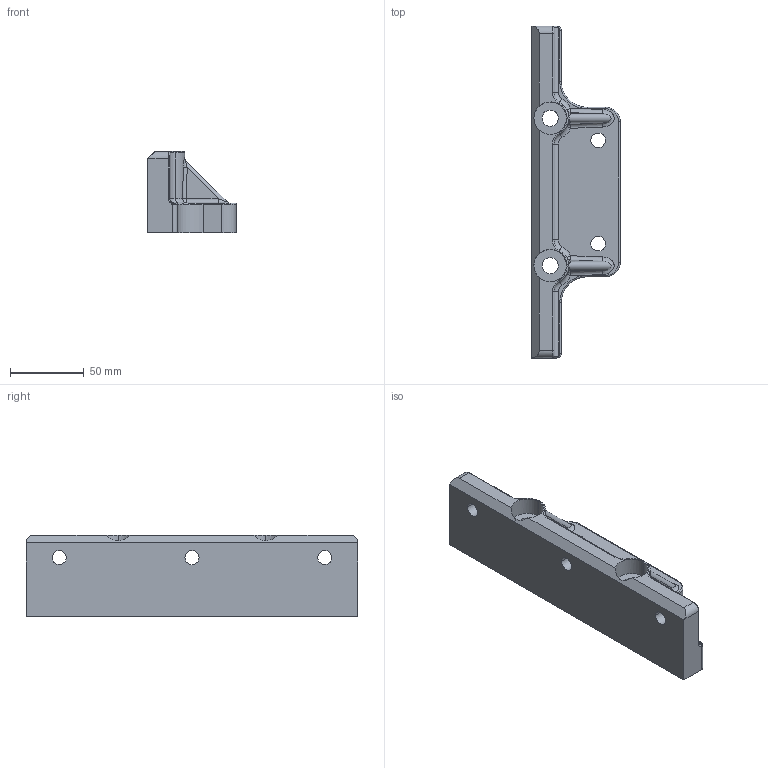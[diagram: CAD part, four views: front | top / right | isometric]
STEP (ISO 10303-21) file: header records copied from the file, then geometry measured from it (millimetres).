
FILE_DESCRIPTION (( 'STEP AP203' ), '1' );
FILE_NAME ('EGT211.STEP', '2024-07-24T12:29:36', ( '' ), ( '' ), 'SwSTEP 2.0', 'SolidWorks 2018', '' );
FILE_SCHEMA (( 'CONFIG_CONTROL_DESIGN' ));
Length unit declared in the file: millimetre
Products named in the file (1): EGT211
Bounding box: 60 x 225 x 55 mm (x, y, z)
Volume: 290943.8 mm3; surface area: 52926.3 mm2
Topology: 1 solids, 1 shells, 127 faces, 310 edges, 188 vertices
Faces by surface type: cylinder 63, torus 26, plane 24, bspline 10, sphere 4
Entity records: 5226 total; most frequent: CARTESIAN_POINT 2137, DIRECTION 658, ORIENTED_EDGE 620, EDGE_CURVE 310, AXIS2_PLACEMENT_3D 278, VERTEX_POINT 188, CIRCLE 160, EDGE_LOOP 144
